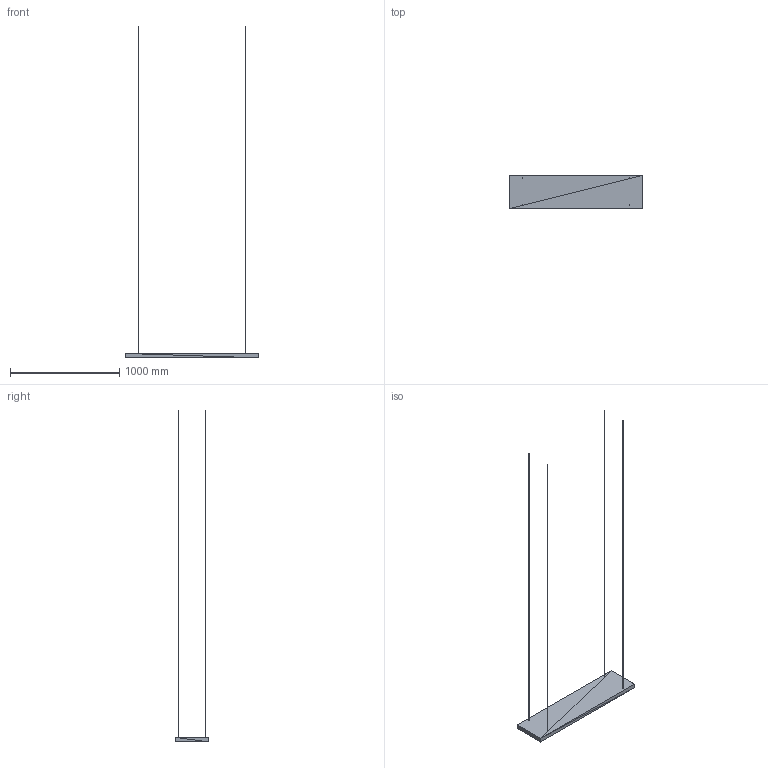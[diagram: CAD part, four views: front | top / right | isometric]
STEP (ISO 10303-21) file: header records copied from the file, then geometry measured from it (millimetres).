
FILE_DESCRIPTION(('ISINAC STEP AP214'),'2;1');
FILE_NAME('ISINAC_R.1220.305_40mm_COLGADO','2026-05-03T10:49:19',('ISINAC'),('www.isinac.com'),'ISINAC BIM Generator 1.0','','');
FILE_SCHEMA(('AUTOMOTIVE_DESIGN'));
Length unit declared in the file: millimetre
Products named in the file (1): ISINAC_R.1220.305_40mm_COLGADO
Bounding box: 1220 x 305 x 3040 mm (x, y, z)
Surface area: 974246 mm2 (no closed solid volume)
Topology: 0 solids, 92 shells, 92 faces, 276 edges, 276 vertices
Faces by surface type: plane 92
Entity records: 1025 total; most frequent: CARTESIAN_POINT 368, DIRECTION 184, POLY_LOOP 92, FACE_OUTER_BOUND 92, AXIS2_PLACEMENT_3D 92, PLANE 92, FACE_SURFACE 92, CLOSED_SHELL 1
